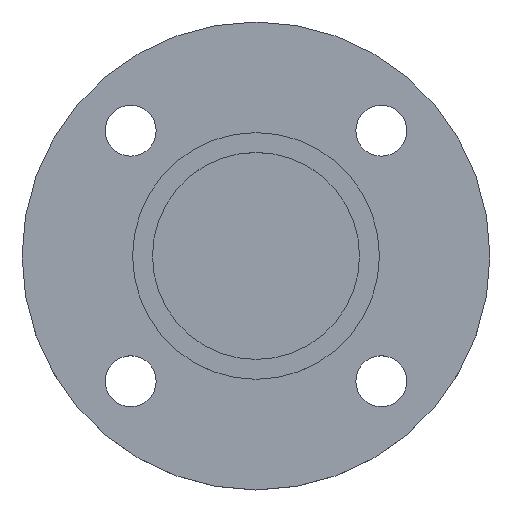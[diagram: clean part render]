
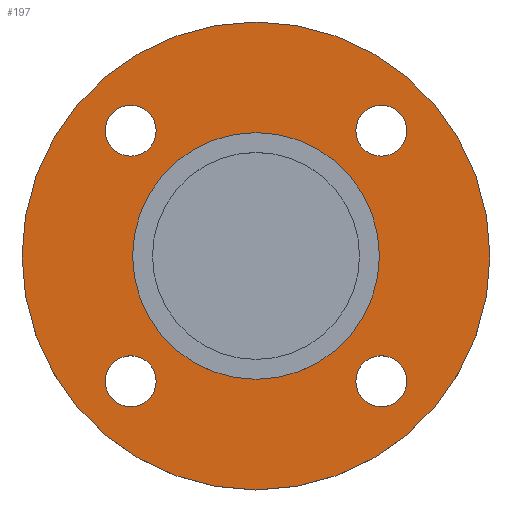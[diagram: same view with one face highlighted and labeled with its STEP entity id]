
A CAD part, top view. The second image highlights one B-rep face of the part: STEP entity #197.
In plain terms, the highlighted planar face has unit normal (0, 0, 1).
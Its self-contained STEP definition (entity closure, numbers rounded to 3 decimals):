
#12 = DIRECTION ( 'NONE',  ( -1., 0., 0. ) ) ;
#13 = DIRECTION ( 'NONE',  ( 0., 0., -1. ) ) ;
#14 = CARTESIAN_POINT ( 'NONE',  ( 0., 0., -4.5 ) ) ;
#15 = DIRECTION ( 'NONE',  ( 1., 0., 0. ) ) ;
#17 = DIRECTION ( 'NONE',  ( 0., 0., -1. ) ) ;
#18 = CARTESIAN_POINT ( 'NONE',  ( -44.194, 44.194, -4.5 ) ) ;
#27 = AXIS2_PLACEMENT_3D ( 'NONE', #103, #101, #100 ) ;
#30 = EDGE_CURVE ( 'NONE', #384, #297, #398, .T. ) ;
#32 = EDGE_CURVE ( 'NONE', #508, #299, #270, .T. ) ;
#34 = CARTESIAN_POINT ( 'NONE',  ( 35.194, 44.194, -4.5 ) ) ;
#42 = VERTEX_POINT ( 'NONE', #279 ) ;
#44 = VERTEX_POINT ( 'NONE', #277 ) ;
#57 = DIRECTION ( 'NONE',  ( 1., 0., 0. ) ) ;
#58 = DIRECTION ( 'NONE',  ( 0., 0., -1. ) ) ;
#59 = CARTESIAN_POINT ( 'NONE',  ( 44.194, 44.194, -4.5 ) ) ;
#83 = CARTESIAN_POINT ( 'NONE',  ( -82.5, 0., -4.5 ) ) ;
#84 = AXIS2_PLACEMENT_3D ( 'NONE', #18, #17, #15 ) ;
#86 = CARTESIAN_POINT ( 'NONE',  ( 53.194, -44.194, -4.5 ) ) ;
#87 = CARTESIAN_POINT ( 'NONE',  ( 82.5, 0., -4.5 ) ) ;
#88 = CARTESIAN_POINT ( 'NONE',  ( 43.5, 0., -4.5 ) ) ;
#93 = CARTESIAN_POINT ( 'NONE',  ( -53.194, -44.194, -4.5 ) ) ;
#100 = DIRECTION ( 'NONE',  ( -1., 0., 0. ) ) ;
#101 = DIRECTION ( 'NONE',  ( 0., 0., -1. ) ) ;
#103 = CARTESIAN_POINT ( 'NONE',  ( 0., 0., -4.5 ) ) ;
#112 = DIRECTION ( 'NONE',  ( 1., 0., 0. ) ) ;
#116 = DIRECTION ( 'NONE',  ( 0., 0., -1. ) ) ;
#117 = CARTESIAN_POINT ( 'NONE',  ( 44.194, -44.194, -4.5 ) ) ;
#123 = DIRECTION ( 'NONE',  ( -1., 0., 0. ) ) ;
#125 = DIRECTION ( 'NONE',  ( 0., 0., -1. ) ) ;
#126 = CARTESIAN_POINT ( 'NONE',  ( 0., 0., -4.5 ) ) ;
#133 = CARTESIAN_POINT ( 'NONE',  ( 35.194, -44.194, -4.5 ) ) ;
#134 = CARTESIAN_POINT ( 'NONE',  ( -35.194, 44.194, -4.5 ) ) ;
#144 = CARTESIAN_POINT ( 'NONE',  ( -35.194, -44.194, -4.5 ) ) ;
#145 = AXIS2_PLACEMENT_3D ( 'NONE', #183, #154, #429 ) ;
#148 = CARTESIAN_POINT ( 'NONE',  ( 53.194, 44.194, -4.5 ) ) ;
#154 = DIRECTION ( 'NONE',  ( 0., 0., -1. ) ) ;
#157 = EDGE_CURVE ( 'NONE', #515, #507, #317, .T. ) ;
#161 = AXIS2_PLACEMENT_3D ( 'NONE', #229, #227, #225 ) ;
#183 = CARTESIAN_POINT ( 'NONE',  ( -44.194, -44.194, -4.5 ) ) ;
#197 = ADVANCED_FACE ( 'NONE', ( #237, #236, #235, #234, #232, #231 ), #230, .T. ) ;
#206 = EDGE_CURVE ( 'NONE', #501, #295, #574, .T. ) ;
#212 = CIRCLE ( 'NONE', #573, 43.5 ) ;
#222 = DIRECTION ( 'NONE',  ( 1., 0., 0. ) ) ;
#223 = DIRECTION ( 'NONE',  ( 0., 0., -1. ) ) ;
#224 = CARTESIAN_POINT ( 'NONE',  ( -44.194, -44.194, -4.5 ) ) ;
#225 = DIRECTION ( 'NONE',  ( 1., 0., 0. ) ) ;
#227 = DIRECTION ( 'NONE',  ( 0., 0., 1. ) ) ;
#229 = CARTESIAN_POINT ( 'NONE',  ( 43.5, 0., -4.5 ) ) ;
#230 = PLANE ( 'NONE',  #161 ) ;
#231 = FACE_OUTER_BOUND ( 'NONE', #476, .T. ) ;
#232 = FACE_BOUND ( 'NONE', #340, .T. ) ;
#234 = FACE_BOUND ( 'NONE', #337, .T. ) ;
#235 = FACE_BOUND ( 'NONE', #331, .T. ) ;
#236 = FACE_BOUND ( 'NONE', #329, .T. ) ;
#237 = FACE_BOUND ( 'NONE', #293, .T. ) ;
#244 = DIRECTION ( 'NONE',  ( -1., 0., 0. ) ) ;
#245 = DIRECTION ( 'NONE',  ( 0., 0., -1. ) ) ;
#246 = CARTESIAN_POINT ( 'NONE',  ( 0., 0., -4.5 ) ) ;
#258 = CIRCLE ( 'NONE', #27, 43.5 ) ;
#270 = CIRCLE ( 'NONE', #365, 9. ) ;
#277 = CARTESIAN_POINT ( 'NONE',  ( -53.194, 44.194, -4.5 ) ) ;
#279 = CARTESIAN_POINT ( 'NONE',  ( -43.5, 0., -4.5 ) ) ;
#280 = DIRECTION ( 'NONE',  ( 1., 0., 0. ) ) ;
#281 = DIRECTION ( 'NONE',  ( 0., 0., -1. ) ) ;
#282 = CARTESIAN_POINT ( 'NONE',  ( 44.194, -44.194, -4.5 ) ) ;
#283 = DIRECTION ( 'NONE',  ( 1., 0., 0. ) ) ;
#284 = DIRECTION ( 'NONE',  ( 0., 0., -1. ) ) ;
#285 = CARTESIAN_POINT ( 'NONE',  ( 44.194, 44.194, -4.5 ) ) ;
#293 = EDGE_LOOP ( 'NONE', ( #417, #416 ) ) ;
#295 = VERTEX_POINT ( 'NONE', #144 ) ;
#297 = VERTEX_POINT ( 'NONE', #148 ) ;
#298 = VERTEX_POINT ( 'NONE', #134 ) ;
#299 = VERTEX_POINT ( 'NONE', #133 ) ;
#303 = EDGE_CURVE ( 'NONE', #507, #515, #319, .T. ) ;
#305 = AXIS2_PLACEMENT_3D ( 'NONE', #246, #245, #244 ) ;
#311 = EDGE_CURVE ( 'NONE', #503, #42, #258, .T. ) ;
#317 = CIRCLE ( 'NONE', #305, 82.5 ) ;
#319 = CIRCLE ( 'NONE', #585, 82.5 ) ;
#325 = CIRCLE ( 'NONE', #440, 9. ) ;
#329 = EDGE_LOOP ( 'NONE', ( #412, #464 ) ) ;
#331 = EDGE_LOOP ( 'NONE', ( #371, #418 ) ) ;
#333 = ORIENTED_EDGE ( 'NONE', *, *, #157, .F. ) ;
#337 = EDGE_LOOP ( 'NONE', ( #462, #367 ) ) ;
#339 = ORIENTED_EDGE ( 'NONE', *, *, #311, .T. ) ;
#340 = EDGE_LOOP ( 'NONE', ( #363, #339 ) ) ;
#354 = EDGE_CURVE ( 'NONE', #297, #384, #411, .T. ) ;
#363 = ORIENTED_EDGE ( 'NONE', *, *, #400, .T. ) ;
#365 = AXIS2_PLACEMENT_3D ( 'NONE', #282, #281, #280 ) ;
#367 = ORIENTED_EDGE ( 'NONE', *, *, #30, .T. ) ;
#371 = ORIENTED_EDGE ( 'NONE', *, *, #581, .T. ) ;
#373 = ORIENTED_EDGE ( 'NONE', *, *, #303, .F. ) ;
#384 = VERTEX_POINT ( 'NONE', #34 ) ;
#396 = EDGE_CURVE ( 'NONE', #44, #298, #414, .T. ) ;
#398 = CIRCLE ( 'NONE', #421, 9. ) ;
#399 = AXIS2_PLACEMENT_3D ( 'NONE', #224, #223, #222 ) ;
#400 = EDGE_CURVE ( 'NONE', #42, #503, #212, .T. ) ;
#411 = CIRCLE ( 'NONE', #449, 9. ) ;
#412 = ORIENTED_EDGE ( 'NONE', *, *, #423, .T. ) ;
#414 = CIRCLE ( 'NONE', #84, 9. ) ;
#416 = ORIENTED_EDGE ( 'NONE', *, *, #455, .T. ) ;
#417 = ORIENTED_EDGE ( 'NONE', *, *, #32, .T. ) ;
#418 = ORIENTED_EDGE ( 'NONE', *, *, #396, .T. ) ;
#421 = AXIS2_PLACEMENT_3D ( 'NONE', #285, #284, #283 ) ;
#423 = EDGE_CURVE ( 'NONE', #295, #501, #448, .T. ) ;
#429 = DIRECTION ( 'NONE',  ( 1., 0., 0. ) ) ;
#434 = AXIS2_PLACEMENT_3D ( 'NONE', #117, #116, #112 ) ;
#440 = AXIS2_PLACEMENT_3D ( 'NONE', #564, #562, #559 ) ;
#448 = CIRCLE ( 'NONE', #145, 9. ) ;
#449 = AXIS2_PLACEMENT_3D ( 'NONE', #59, #58, #57 ) ;
#455 = EDGE_CURVE ( 'NONE', #299, #508, #543, .T. ) ;
#462 = ORIENTED_EDGE ( 'NONE', *, *, #354, .T. ) ;
#464 = ORIENTED_EDGE ( 'NONE', *, *, #206, .T. ) ;
#476 = EDGE_LOOP ( 'NONE', ( #373, #333 ) ) ;
#501 = VERTEX_POINT ( 'NONE', #93 ) ;
#503 = VERTEX_POINT ( 'NONE', #88 ) ;
#507 = VERTEX_POINT ( 'NONE', #87 ) ;
#508 = VERTEX_POINT ( 'NONE', #86 ) ;
#515 = VERTEX_POINT ( 'NONE', #83 ) ;
#543 = CIRCLE ( 'NONE', #434, 9. ) ;
#559 = DIRECTION ( 'NONE',  ( 1., 0., 0. ) ) ;
#562 = DIRECTION ( 'NONE',  ( 0., 0., -1. ) ) ;
#564 = CARTESIAN_POINT ( 'NONE',  ( -44.194, 44.194, -4.5 ) ) ;
#573 = AXIS2_PLACEMENT_3D ( 'NONE', #14, #13, #12 ) ;
#574 = CIRCLE ( 'NONE', #399, 9. ) ;
#581 = EDGE_CURVE ( 'NONE', #298, #44, #325, .T. ) ;
#585 = AXIS2_PLACEMENT_3D ( 'NONE', #126, #125, #123 ) ;
